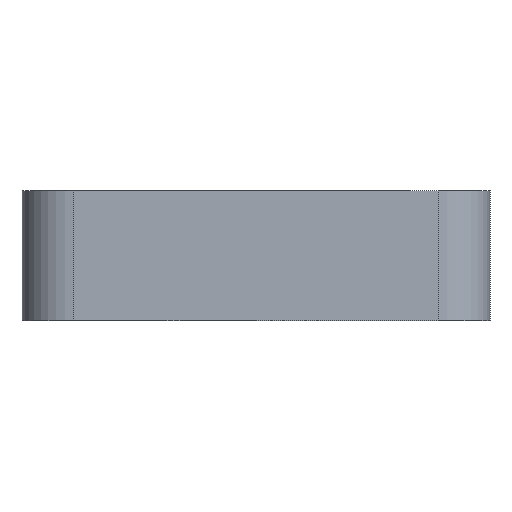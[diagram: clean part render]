
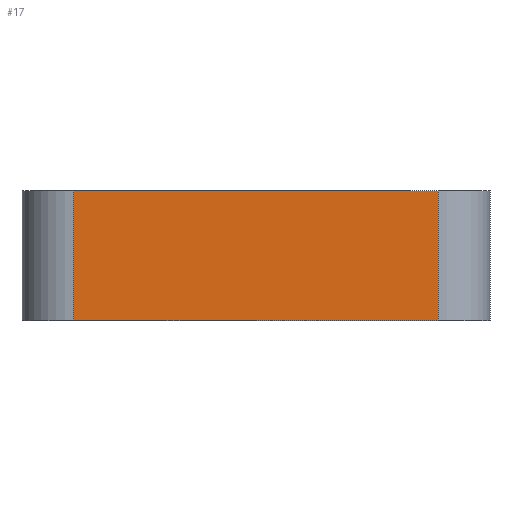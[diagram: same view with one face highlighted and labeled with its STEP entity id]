
A CAD part, left-side view. The second image highlights one B-rep face of the part: STEP entity #17.
In plain terms, the highlighted planar face has unit normal (-1, 0, 0).
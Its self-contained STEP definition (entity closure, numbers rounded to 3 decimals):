
#17 = ADVANCED_FACE('',(#18),#32,.F.);
#18 = FACE_BOUND('',#19,.F.);
#19 = EDGE_LOOP('',(#20,#55,#83,#111));
#20 = ORIENTED_EDGE('',*,*,#21,.F.);
#21 = EDGE_CURVE('',#22,#24,#26,.T.);
#22 = VERTEX_POINT('',#23);
#23 = CARTESIAN_POINT('',(-15.,-7.,5.));
#24 = VERTEX_POINT('',#25);
#25 = CARTESIAN_POINT('',(-15.,7.,5.));
#26 = SURFACE_CURVE('',#27,(#31,#43),.PCURVE_S1.);
#27 = LINE('',#28,#29);
#28 = CARTESIAN_POINT('',(-15.,-9.,5.));
#29 = VECTOR('',#30,1.);
#30 = DIRECTION('',(0.,1.,0.));
#31 = PCURVE('',#32,#37);
#32 = PLANE('',#33);
#33 = AXIS2_PLACEMENT_3D('',#34,#35,#36);
#34 = CARTESIAN_POINT('',(-15.,-9.,0.));
#35 = DIRECTION('',(1.,0.,0.));
#36 = DIRECTION('',(0.,0.,1.));
#37 = DEFINITIONAL_REPRESENTATION('',(#38),#42);
#38 = LINE('',#39,#40);
#39 = CARTESIAN_POINT('',(5.,0.));
#40 = VECTOR('',#41,1.);
#41 = DIRECTION('',(0.,-1.));
#42 = ( GEOMETRIC_REPRESENTATION_CONTEXT(2) 
PARAMETRIC_REPRESENTATION_CONTEXT() REPRESENTATION_CONTEXT('2D SPACE',''
  ) );
#43 = PCURVE('',#44,#49);
#44 = PLANE('',#45);
#45 = AXIS2_PLACEMENT_3D('',#46,#47,#48);
#46 = CARTESIAN_POINT('',(-15.,-9.,5.));
#47 = DIRECTION('',(0.,0.,1.));
#48 = DIRECTION('',(1.,0.,0.));
#49 = DEFINITIONAL_REPRESENTATION('',(#50),#54);
#50 = LINE('',#51,#52);
#51 = CARTESIAN_POINT('',(0.,0.));
#52 = VECTOR('',#53,1.);
#53 = DIRECTION('',(0.,1.));
#54 = ( GEOMETRIC_REPRESENTATION_CONTEXT(2) 
PARAMETRIC_REPRESENTATION_CONTEXT() REPRESENTATION_CONTEXT('2D SPACE',''
  ) );
#55 = ORIENTED_EDGE('',*,*,#56,.F.);
#56 = EDGE_CURVE('',#57,#22,#59,.T.);
#57 = VERTEX_POINT('',#58);
#58 = CARTESIAN_POINT('',(-15.,-7.,0.));
#59 = SURFACE_CURVE('',#60,(#64,#71),.PCURVE_S1.);
#60 = LINE('',#61,#62);
#61 = CARTESIAN_POINT('',(-15.,-7.,0.));
#62 = VECTOR('',#63,1.);
#63 = DIRECTION('',(0.,0.,1.));
#64 = PCURVE('',#32,#65);
#65 = DEFINITIONAL_REPRESENTATION('',(#66),#70);
#66 = LINE('',#67,#68);
#67 = CARTESIAN_POINT('',(0.,-2.));
#68 = VECTOR('',#69,1.);
#69 = DIRECTION('',(1.,0.));
#70 = ( GEOMETRIC_REPRESENTATION_CONTEXT(2) 
PARAMETRIC_REPRESENTATION_CONTEXT() REPRESENTATION_CONTEXT('2D SPACE',''
  ) );
#71 = PCURVE('',#72,#77);
#72 = CYLINDRICAL_SURFACE('',#73,2.);
#73 = AXIS2_PLACEMENT_3D('',#74,#75,#76);
#74 = CARTESIAN_POINT('',(-13.,-7.,0.));
#75 = DIRECTION('',(0.,0.,1.));
#76 = DIRECTION('',(-1.,-0.,0.));
#77 = DEFINITIONAL_REPRESENTATION('',(#78),#82);
#78 = LINE('',#79,#80);
#79 = CARTESIAN_POINT('',(0.,0.));
#80 = VECTOR('',#81,1.);
#81 = DIRECTION('',(0.,1.));
#82 = ( GEOMETRIC_REPRESENTATION_CONTEXT(2) 
PARAMETRIC_REPRESENTATION_CONTEXT() REPRESENTATION_CONTEXT('2D SPACE',''
  ) );
#83 = ORIENTED_EDGE('',*,*,#84,.T.);
#84 = EDGE_CURVE('',#57,#85,#87,.T.);
#85 = VERTEX_POINT('',#86);
#86 = CARTESIAN_POINT('',(-15.,7.,0.));
#87 = SURFACE_CURVE('',#88,(#92,#99),.PCURVE_S1.);
#88 = LINE('',#89,#90);
#89 = CARTESIAN_POINT('',(-15.,-9.,0.));
#90 = VECTOR('',#91,1.);
#91 = DIRECTION('',(0.,1.,0.));
#92 = PCURVE('',#32,#93);
#93 = DEFINITIONAL_REPRESENTATION('',(#94),#98);
#94 = LINE('',#95,#96);
#95 = CARTESIAN_POINT('',(0.,0.));
#96 = VECTOR('',#97,1.);
#97 = DIRECTION('',(0.,-1.));
#98 = ( GEOMETRIC_REPRESENTATION_CONTEXT(2) 
PARAMETRIC_REPRESENTATION_CONTEXT() REPRESENTATION_CONTEXT('2D SPACE',''
  ) );
#99 = PCURVE('',#100,#105);
#100 = PLANE('',#101);
#101 = AXIS2_PLACEMENT_3D('',#102,#103,#104);
#102 = CARTESIAN_POINT('',(-15.,-9.,0.));
#103 = DIRECTION('',(0.,0.,1.));
#104 = DIRECTION('',(1.,0.,0.));
#105 = DEFINITIONAL_REPRESENTATION('',(#106),#110);
#106 = LINE('',#107,#108);
#107 = CARTESIAN_POINT('',(0.,0.));
#108 = VECTOR('',#109,1.);
#109 = DIRECTION('',(0.,1.));
#110 = ( GEOMETRIC_REPRESENTATION_CONTEXT(2) 
PARAMETRIC_REPRESENTATION_CONTEXT() REPRESENTATION_CONTEXT('2D SPACE',''
  ) );
#111 = ORIENTED_EDGE('',*,*,#112,.T.);
#112 = EDGE_CURVE('',#85,#24,#113,.T.);
#113 = SURFACE_CURVE('',#114,(#118,#125),.PCURVE_S1.);
#114 = LINE('',#115,#116);
#115 = CARTESIAN_POINT('',(-15.,7.,0.));
#116 = VECTOR('',#117,1.);
#117 = DIRECTION('',(0.,0.,1.));
#118 = PCURVE('',#32,#119);
#119 = DEFINITIONAL_REPRESENTATION('',(#120),#124);
#120 = LINE('',#121,#122);
#121 = CARTESIAN_POINT('',(0.,-16.));
#122 = VECTOR('',#123,1.);
#123 = DIRECTION('',(1.,0.));
#124 = ( GEOMETRIC_REPRESENTATION_CONTEXT(2) 
PARAMETRIC_REPRESENTATION_CONTEXT() REPRESENTATION_CONTEXT('2D SPACE',''
  ) );
#125 = PCURVE('',#126,#131);
#126 = CYLINDRICAL_SURFACE('',#127,2.);
#127 = AXIS2_PLACEMENT_3D('',#128,#129,#130);
#128 = CARTESIAN_POINT('',(-13.,7.,0.));
#129 = DIRECTION('',(0.,0.,1.));
#130 = DIRECTION('',(-1.,-0.,0.));
#131 = DEFINITIONAL_REPRESENTATION('',(#132),#136);
#132 = LINE('',#133,#134);
#133 = CARTESIAN_POINT('',(-0.,0.));
#134 = VECTOR('',#135,1.);
#135 = DIRECTION('',(-0.,1.));
#136 = ( GEOMETRIC_REPRESENTATION_CONTEXT(2) 
PARAMETRIC_REPRESENTATION_CONTEXT() REPRESENTATION_CONTEXT('2D SPACE',''
  ) );
